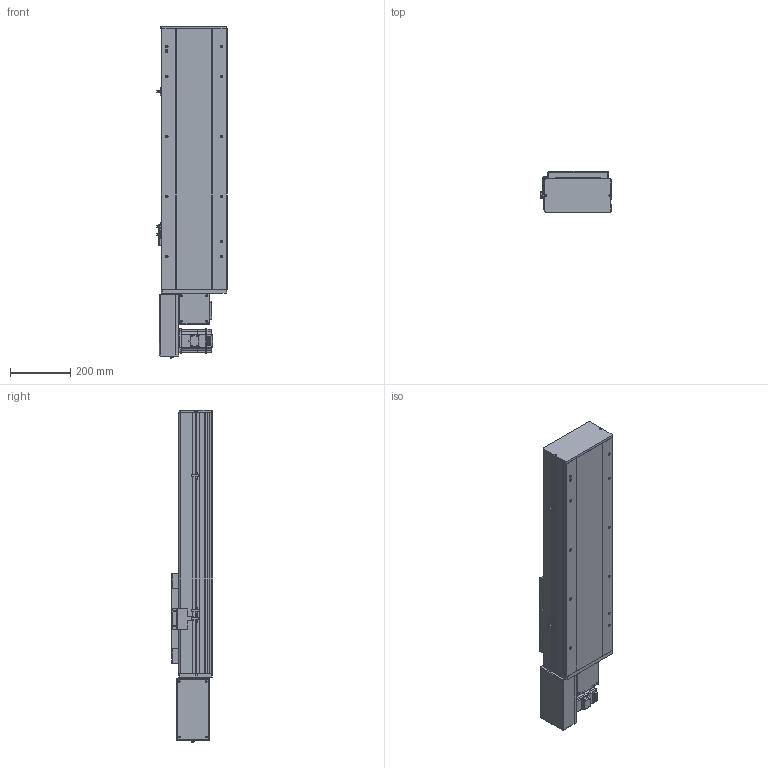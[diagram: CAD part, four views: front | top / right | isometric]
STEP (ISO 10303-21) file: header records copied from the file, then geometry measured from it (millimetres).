
FILE_DESCRIPTION (( 'STEP AP214' ), '1' );
FILE_NAME ('TPE22-L40-450-R-T75-C4.STEP', '2023-04-13T00:26:37', ( '' ), ( '' ), 'SwSTEP 2.0', 'SolidWorks 2020', '' );
FILE_SCHEMA (( 'AUTOMOTIVE_DESIGN' ));
Length unit declared in the file: millimetre
Products named in the file (10): 葩璃 MSMD08PC_P75^TPE22-L40-R-T75-C4; 葩璃 詩湍150^TPE22-L40-R-T75-C4; 葩璃 pm-t65-672^TPE22-L40-R-T75-C4; hexagon head bolts-full thread gb_GB_FASTENER_BOLT_STBAB A M5X16-N; 葩璃 TPT22-L-009 萇儂啣^TPE22-L40-R-T75-C4; 葩璃 TPE22 賑雄殤^TPE22-L40-R-T75-C4; TPE22-L40-450-R-T75-C4; 葩璃 TPE22-L-002 耜裔ZTMZ-220-04^TPE22-L40-R-T75-C4; 葩璃 TPE22-L-007 々湍釱^TPE22-L40-R-T75-C4; 葩璃 TPE22-L-001 菁釱MZ-220-01^TPE22-L40-R-T75-C4
Assembly tree (12 placements, depth 2):
  TPE22-L40-450-R-T75-C4
    葩璃 TPE22-L-001 菁釱MZ-220-01^TPE22-L40-R-T75-C4
    葩璃 TPE22-L-002 耜裔ZTMZ-220-04^TPE22-L40-R-T75-C4  x2
    葩璃 詩湍150^TPE22-L40-R-T75-C4
    葩璃 TPE22-L-007 々湍釱^TPE22-L40-R-T75-C4
    葩璃 TPT22-L-009 萇儂啣^TPE22-L40-R-T75-C4
    葩璃 TPE22 賑雄殤^TPE22-L40-R-T75-C4
    葩璃 pm-t65-672^TPE22-L40-R-T75-C4  x3
    葩璃 MSMD08PC_P75^TPE22-L40-R-T75-C4
    hexagon head bolts-full thread gb_GB_FASTENER_BOLT_STBAB A M5X16-N
Bounding box: 233.7 x 138 x 1105.65 mm (x, y, z)
Volume: 11785021.4 mm3; surface area: 1930179.9 mm2
Topology: 22 solids, 22 shells, 1725 faces, 4539 edges, 2905 vertices
Faces by surface type: plane 1039, cylinder 560, cone 96, bspline 30
Entity records: 48650 total; most frequent: CARTESIAN_POINT 10135, DIRECTION 7650, ORIENTED_EDGE 7590, EDGE_CURVE 3795, LINE 2600, VECTOR 2600, AXIS2_PLACEMENT_3D 2525, VERTEX_POINT 2449
